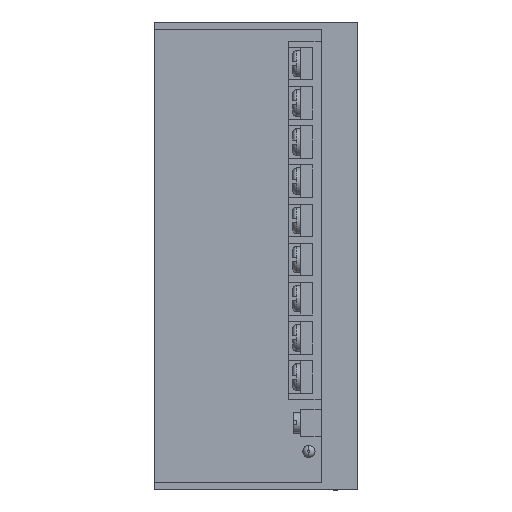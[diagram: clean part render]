
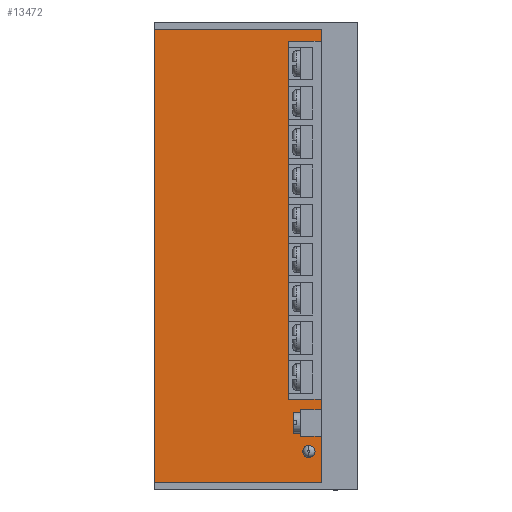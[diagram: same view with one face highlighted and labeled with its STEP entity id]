
A CAD part, left-side view. The second image highlights one B-rep face of the part: STEP entity #13472.
In plain terms, the highlighted planar face has unit normal (-1, 0, 0).
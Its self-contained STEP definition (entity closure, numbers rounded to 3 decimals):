
#532 = CARTESIAN_POINT ( 'NONE',  ( -89.5, 17., 52.75 ) ) ;
#533 = DIRECTION ( 'NONE',  ( 0., -1., 0. ) ) ;
#534 = CARTESIAN_POINT ( 'NONE',  ( -89.5, 9., 55.75 ) ) ;
#535 = DIRECTION ( 'NONE',  ( 0., 1., 0. ) ) ;
#991 = CARTESIAN_POINT ( 'NONE',  ( -89.5, 17., -35.25 ) ) ;
#992 = DIRECTION ( 'NONE',  ( 0., -1., 0. ) ) ;
#997 = CARTESIAN_POINT ( 'NONE',  ( -89.5, 17., 52.75 ) ) ;
#998 = DIRECTION ( 'NONE',  ( 0., 0., -1. ) ) ;
#1094 = EDGE_LOOP ( 'NONE', ( #2874, #15342, #15337, #15376, #15377, #15378, #15373, #15374 ) ) ;
#2874 = ORIENTED_EDGE ( 'NONE', *, *, #9473, .F. ) ;
#4482 = VERTEX_POINT ( 'NONE', #34159 ) ;
#4484 = VERTEX_POINT ( 'NONE', #34160 ) ;
#4491 = VERTEX_POINT ( 'NONE', #34163 ) ;
#4493 = VERTEX_POINT ( 'NONE', #34164 ) ;
#5045 = VERTEX_POINT ( 'NONE', #34376 ) ;
#5048 = VERTEX_POINT ( 'NONE', #34377 ) ;
#5050 = VERTEX_POINT ( 'NONE', #34378 ) ;
#5052 = VERTEX_POINT ( 'NONE', #34379 ) ;
#6716 = VECTOR ( 'NONE', #32508, 1000. ) ;
#6737 = LINE ( 'NONE', #32507, #6716 ) ;
#9318 = EDGE_CURVE ( 'NONE', #5048, #4493, #36295, .T. ) ;
#9319 = EDGE_CURVE ( 'NONE', #4491, #5050, #36275, .T. ) ;
#9473 = EDGE_CURVE ( 'NONE', #5045, #4482, #11335, .T. ) ;
#9476 = EDGE_CURVE ( 'NONE', #5048, #5045, #11297, .T. ) ;
#10840 = FACE_OUTER_BOUND ( 'NONE', #1094, .T. ) ;
#11288 = VECTOR ( 'NONE', #998, 1000. ) ;
#11297 = LINE ( 'NONE', #997, #11288 ) ;
#11306 = VECTOR ( 'NONE', #992, 1000. ) ;
#11335 = LINE ( 'NONE', #991, #11306 ) ;
#13472 = ADVANCED_FACE ( 'NONE', ( #10840 ), #23663, .F. ) ;
#15337 = ORIENTED_EDGE ( 'NONE', *, *, #9318, .T. ) ;
#15342 = ORIENTED_EDGE ( 'NONE', *, *, #9476, .F. ) ;
#15373 = ORIENTED_EDGE ( 'NONE', *, *, #30798, .F. ) ;
#15374 = ORIENTED_EDGE ( 'NONE', *, *, #30047, .F. ) ;
#15376 = ORIENTED_EDGE ( 'NONE', *, *, #30030, .F. ) ;
#15377 = ORIENTED_EDGE ( 'NONE', *, *, #9319, .T. ) ;
#15378 = ORIENTED_EDGE ( 'NONE', *, *, #29968, .T. ) ;
#23663 = PLANE ( 'NONE',  #24324 ) ;
#23664 = CARTESIAN_POINT ( 'NONE',  ( -89.5, 9., -55.75 ) ) ;
#23665 = DIRECTION ( 'NONE',  ( 1., 0., 0. ) ) ;
#23666 = DIRECTION ( 'NONE',  ( 0., 0., -1. ) ) ;
#24324 = AXIS2_PLACEMENT_3D ( 'NONE', #23664, #23665, #23666 ) ;
#26872 = CARTESIAN_POINT ( 'NONE',  ( -89.5, 50., -55.75 ) ) ;
#26873 = DIRECTION ( 'NONE',  ( 0., 0., -1. ) ) ;
#27055 = CARTESIAN_POINT ( 'NONE',  ( -89.5, 9., -55.75 ) ) ;
#27056 = DIRECTION ( 'NONE',  ( 0., 0., -1. ) ) ;
#27092 = CARTESIAN_POINT ( 'NONE',  ( -89.5, 9., -55.75 ) ) ;
#27093 = DIRECTION ( 'NONE',  ( 0., 0., -1. ) ) ;
#29968 = EDGE_CURVE ( 'NONE', #5050, #5052, #35886, .T. ) ;
#30030 = EDGE_CURVE ( 'NONE', #4491, #4493, #35921, .T. ) ;
#30047 = EDGE_CURVE ( 'NONE', #4482, #4484, #32183, .T. ) ;
#30798 = EDGE_CURVE ( 'NONE', #4484, #5052, #6737, .T. ) ;
#32153 = VECTOR ( 'NONE', #27093, 1000. ) ;
#32183 = LINE ( 'NONE', #27092, #32153 ) ;
#32507 = CARTESIAN_POINT ( 'NONE',  ( -89.5, 9., -55.75 ) ) ;
#32508 = DIRECTION ( 'NONE',  ( 0., 1., 0. ) ) ;
#34159 = CARTESIAN_POINT ( 'NONE',  ( -89.5, 9., -35.25 ) ) ;
#34160 = CARTESIAN_POINT ( 'NONE',  ( -89.5, 9., -55.75 ) ) ;
#34163 = CARTESIAN_POINT ( 'NONE',  ( -89.5, 9., 55.75 ) ) ;
#34164 = CARTESIAN_POINT ( 'NONE',  ( -89.5, 9., 52.75 ) ) ;
#34376 = CARTESIAN_POINT ( 'NONE',  ( -89.5, 17., -35.25 ) ) ;
#34377 = CARTESIAN_POINT ( 'NONE',  ( -89.5, 17., 52.75 ) ) ;
#34378 = CARTESIAN_POINT ( 'NONE',  ( -89.5, 50., 55.75 ) ) ;
#34379 = CARTESIAN_POINT ( 'NONE',  ( -89.5, 50., -55.75 ) ) ;
#35877 = VECTOR ( 'NONE', #26873, 1000. ) ;
#35886 = LINE ( 'NONE', #26872, #35877 ) ;
#35919 = VECTOR ( 'NONE', #27056, 1000. ) ;
#35921 = LINE ( 'NONE', #27055, #35919 ) ;
#36259 = VECTOR ( 'NONE', #535, 1000. ) ;
#36275 = LINE ( 'NONE', #534, #36259 ) ;
#36285 = VECTOR ( 'NONE', #533, 1000. ) ;
#36295 = LINE ( 'NONE', #532, #36285 ) ;
